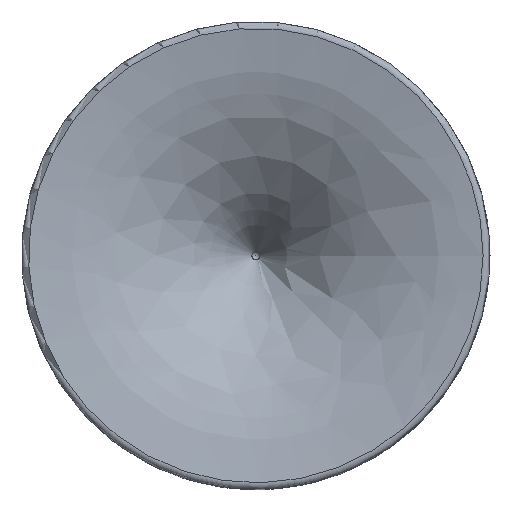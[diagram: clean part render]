
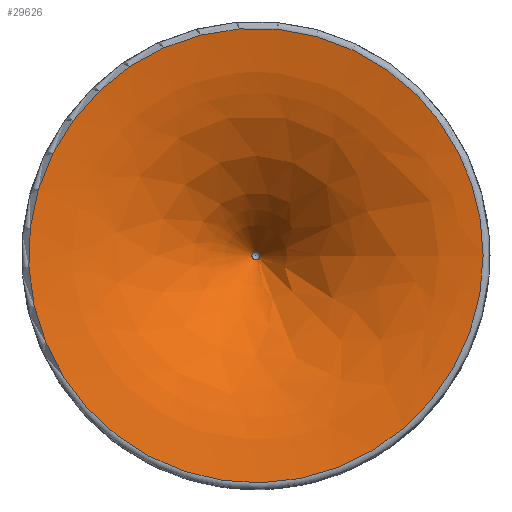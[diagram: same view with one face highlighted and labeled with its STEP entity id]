
A CAD part, top view. The second image highlights one B-rep face of the part: STEP entity #29626.
In plain terms, the highlighted free-form (B-spline) face has degree [2, 2] with [3, 9] control points.
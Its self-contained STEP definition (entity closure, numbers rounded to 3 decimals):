
#384=(
BOUNDED_SURFACE()
B_SPLINE_SURFACE(2,2,((#44523,#44524,#44525,#44526,#44527,#44528,#44529,
#44530,#44531),(#44532,#44533,#44534,#44535,#44536,#44537,#44538,#44539,
#44540),(#44541,#44542,#44543,#44544,#44545,#44546,#44547,#44548,#44549)),
 .UNSPECIFIED.,.F.,.T.,.F.)
B_SPLINE_SURFACE_WITH_KNOTS((3,3),(3,2,2,2,3),(1.673,2.567),
(-3.142,-1.571,0.,1.571,3.142),
 .UNSPECIFIED.)
GEOMETRIC_REPRESENTATION_ITEM()
RATIONAL_B_SPLINE_SURFACE(((1.,0.707,1.,0.707,1.,
0.707,1.,0.707,1.),(0.902,0.638,
0.902,0.638,0.902,0.638,0.902,
0.638,0.902),(1.,0.707,1.,0.707,
1.,0.707,1.,0.707,1.)))
REPRESENTATION_ITEM('')
SURFACE()
);
#8046=FACE_OUTER_BOUND('',#9710,.T.);
#9710=EDGE_LOOP('',(#20333,#20334,#20335,#20336,#20337,#20338));
#11572=CIRCLE('',#32022,2.519);
#11574=CIRCLE('',#32024,2.519);
#11575=CIRCLE('',#32025,145.591);
#11576=CIRCLE('',#32026,194.);
#11577=CIRCLE('',#32027,145.591);
#12965=VERTEX_POINT('',#44517);
#12966=VERTEX_POINT('',#44518);
#12968=VERTEX_POINT('',#44550);
#12969=VERTEX_POINT('',#44551);
#15889=EDGE_CURVE('',#12965,#12966,#11572,.T.);
#15891=EDGE_CURVE('',#12966,#12965,#11574,.T.);
#15892=EDGE_CURVE('',#12968,#12969,#11575,.T.);
#15893=EDGE_CURVE('',#12969,#12965,#11576,.T.);
#15894=EDGE_CURVE('',#12969,#12968,#11577,.T.);
#20333=ORIENTED_EDGE('',*,*,#15892,.T.);
#20334=ORIENTED_EDGE('',*,*,#15893,.T.);
#20335=ORIENTED_EDGE('',*,*,#15891,.F.);
#20336=ORIENTED_EDGE('',*,*,#15889,.F.);
#20337=ORIENTED_EDGE('',*,*,#15893,.F.);
#20338=ORIENTED_EDGE('',*,*,#15894,.T.);
#29626=ADVANCED_FACE('',(#8046),#384,.F.);
#32022=AXIS2_PLACEMENT_3D('',#44519,#35177,#35178);
#32024=AXIS2_PLACEMENT_3D('',#44522,#35181,#35182);
#32025=AXIS2_PLACEMENT_3D('',#44552,#35183,#35184);
#32026=AXIS2_PLACEMENT_3D('',#44553,#35185,#35186);
#32027=AXIS2_PLACEMENT_3D('',#44554,#35187,#35188);
#35177=DIRECTION('center_axis',(0.,0.,1.));
#35178=DIRECTION('ref_axis',(0.707,0.707,0.));
#35181=DIRECTION('center_axis',(0.,0.,1.));
#35182=DIRECTION('ref_axis',(0.707,0.707,0.));
#35183=DIRECTION('center_axis',(0.,0.,1.));
#35184=DIRECTION('ref_axis',(0.707,0.707,0.));
#35185=DIRECTION('center_axis',(0.,1.,0.));
#35186=DIRECTION('ref_axis',(-1.,0.,0.));
#35187=DIRECTION('center_axis',(0.,0.,1.));
#35188=DIRECTION('ref_axis',(0.707,0.707,0.));
#44517=CARTESIAN_POINT('',(-2.519,0.,182.87));
#44518=CARTESIAN_POINT('',(-1.781,1.781,182.87));
#44519=CARTESIAN_POINT('Origin',(0.,0.,182.87));
#44522=CARTESIAN_POINT('Origin',(0.,0.,182.87));
#44523=CARTESIAN_POINT('Ctrl Pts',(-145.591,0.,
270.479));
#44524=CARTESIAN_POINT('Ctrl Pts',(-145.591,-145.591,
270.479));
#44525=CARTESIAN_POINT('Ctrl Pts',(0.,-145.591,
270.479));
#44526=CARTESIAN_POINT('Ctrl Pts',(145.591,-145.591,270.479));
#44527=CARTESIAN_POINT('Ctrl Pts',(145.591,0.,
270.479));
#44528=CARTESIAN_POINT('Ctrl Pts',(145.591,145.591,270.479));
#44529=CARTESIAN_POINT('Ctrl Pts',(0.,145.591,
270.479));
#44530=CARTESIAN_POINT('Ctrl Pts',(-145.591,145.591,270.479));
#44531=CARTESIAN_POINT('Ctrl Pts',(-145.591,0.,
270.479));
#44532=CARTESIAN_POINT('Ctrl Pts',(-53.05,0.,
260.978));
#44533=CARTESIAN_POINT('Ctrl Pts',(-53.05,-53.05,
260.978));
#44534=CARTESIAN_POINT('Ctrl Pts',(0.,-53.05,
260.978));
#44535=CARTESIAN_POINT('Ctrl Pts',(53.05,-53.05,260.978));
#44536=CARTESIAN_POINT('Ctrl Pts',(53.05,0.,
260.978));
#44537=CARTESIAN_POINT('Ctrl Pts',(53.05,53.05,260.978));
#44538=CARTESIAN_POINT('Ctrl Pts',(0.,53.05,
260.978));
#44539=CARTESIAN_POINT('Ctrl Pts',(-53.05,53.05,260.978));
#44540=CARTESIAN_POINT('Ctrl Pts',(-53.05,0.,
260.978));
#44541=CARTESIAN_POINT('Ctrl Pts',(-2.519,0.,
182.87));
#44542=CARTESIAN_POINT('Ctrl Pts',(-2.519,-2.519,
182.87));
#44543=CARTESIAN_POINT('Ctrl Pts',(0.,-2.519,
182.87));
#44544=CARTESIAN_POINT('Ctrl Pts',(2.519,-2.519,182.87));
#44545=CARTESIAN_POINT('Ctrl Pts',(2.519,0.,
182.87));
#44546=CARTESIAN_POINT('Ctrl Pts',(2.519,2.519,182.87));
#44547=CARTESIAN_POINT('Ctrl Pts',(0.,2.519,
182.87));
#44548=CARTESIAN_POINT('Ctrl Pts',(-2.519,2.519,182.87));
#44549=CARTESIAN_POINT('Ctrl Pts',(-2.519,0.,
182.87));
#44550=CARTESIAN_POINT('',(-102.949,-102.949,270.479));
#44551=CARTESIAN_POINT('',(-145.591,0.,270.479));
#44552=CARTESIAN_POINT('Origin',(0.,0.,270.479));
#44553=CARTESIAN_POINT('Origin',(-165.404,0.,
77.493));
#44554=CARTESIAN_POINT('Origin',(0.,0.,270.479));
